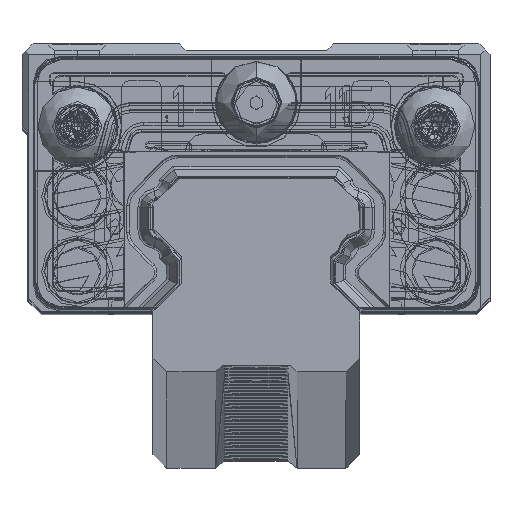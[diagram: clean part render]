
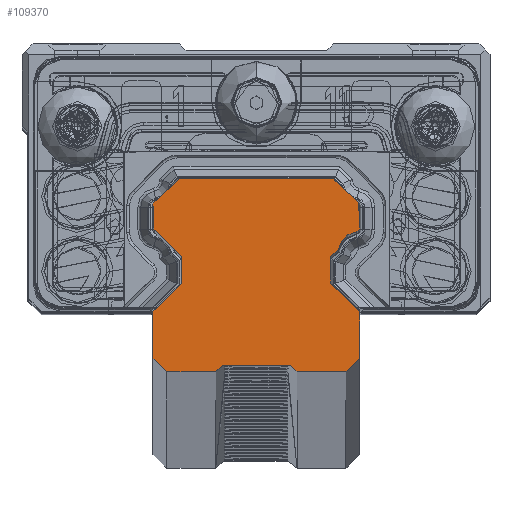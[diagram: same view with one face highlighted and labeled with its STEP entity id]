
A CAD part, top view. The second image highlights one B-rep face of the part: STEP entity #109370.
In plain terms, the highlighted planar face has unit normal (0, 0, 1).
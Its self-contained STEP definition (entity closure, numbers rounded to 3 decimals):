
#97195=DIRECTION('',(0.707,-0.707,0.));
#97196=VECTOR('',#97195,0.758);
#97197=CARTESIAN_POINT('',(-5.936,-2.414,500.));
#97198=LINE('',#97197,#97196);
#97223=DIRECTION('',(0.707,0.707,0.));
#97224=VECTOR('',#97223,0.707);
#97225=CARTESIAN_POINT('',(-2.95,-11.3,500.));
#97226=LINE('',#97225,#97224);
#97959=DIRECTION('',(-0.707,-0.707,0.));
#97960=VECTOR('',#97959,0.494);
#97961=CARTESIAN_POINT('',(-5.6,2.7,500.));
#97962=LINE('',#97961,#97960);
#98394=CARTESIAN_POINT('',(2.45,-10.8,500.));
#98396=DIRECTION('',(0.707,-0.707,0.));
#98397=VECTOR('',#98396,0.707);
#98398=CARTESIAN_POINT('',(2.45,-10.8,500.));
#98399=LINE('',#98398,#98397);
#101709=DIRECTION('',(1.,0.,0.));
#101710=VECTOR('',#101709,4.9);
#101711=CARTESIAN_POINT('',(-2.45,-10.8,500.));
#101712=LINE('',#101711,#101710);
#101713=CARTESIAN_POINT('',(-5.936,-2.414,500.));
#101714=CARTESIAN_POINT('',(-5.98,-2.183,500.));
#101715=CARTESIAN_POINT('',(-6.157,-1.769,500.));
#101716=CARTESIAN_POINT('',(-6.608,-1.371,500.));
#101717=CARTESIAN_POINT('',(-7.067,-1.061,500.));
#101718=CARTESIAN_POINT('',(-7.423,-1.005,500.));
#101720=DIRECTION('',(-0.042,0.999,0.));
#101721=VECTOR('',#101720,1.841);
#101722=CARTESIAN_POINT('',(-7.423,-1.005,500.));
#101723=LINE('',#101722,#101721);
#101724=CARTESIAN_POINT('',(-7.2,0.834,500.));
#101725=DIRECTION('',(0.,0.,-1.));
#101726=DIRECTION('',(-1.,0.,0.));
#101727=AXIS2_PLACEMENT_3D('',#101724,#101725,#101726);
#101729=CARTESIAN_POINT('',(-7.19,1.143,500.));
#101730=CARTESIAN_POINT('',(-6.98,1.203,500.));
#101731=CARTESIAN_POINT('',(-6.676,1.296,500.));
#101732=CARTESIAN_POINT('',(-6.184,1.738,500.));
#101733=CARTESIAN_POINT('',(-6.002,2.122,500.));
#101734=CARTESIAN_POINT('',(-5.949,2.351,500.));
#101736=DIRECTION('',(1.,0.,0.));
#101737=VECTOR('',#101736,11.2);
#101738=CARTESIAN_POINT('',(-5.6,2.7,500.));
#101739=LINE('',#101738,#101737);
#101740=CARTESIAN_POINT('',(5.949,2.351,500.));
#101741=CARTESIAN_POINT('',(5.998,2.141,500.));
#101742=CARTESIAN_POINT('',(6.171,1.758,500.));
#101743=CARTESIAN_POINT('',(6.589,1.387,500.));
#101744=CARTESIAN_POINT('',(7.05,1.068,500.));
#101745=CARTESIAN_POINT('',(7.418,1.006,500.));
#101747=DIRECTION('',(0.044,-0.999,0.));
#101748=VECTOR('',#101747,1.842);
#101749=CARTESIAN_POINT('',(7.418,1.006,500.));
#101750=LINE('',#101749,#101748);
#101751=CARTESIAN_POINT('',(7.2,-0.834,500.));
#101752=DIRECTION('',(0.,0.,-1.));
#101753=DIRECTION('',(1.,0.,0.));
#101754=AXIS2_PLACEMENT_3D('',#101751,#101752,#101753);
#101756=CARTESIAN_POINT('',(7.509,-2.709,500.));
#101757=DIRECTION('',(0.,0.,1.));
#101758=DIRECTION('',(-0.163,0.987,0.));
#101759=AXIS2_PLACEMENT_3D('',#101756,#101757,#101758);
#101761=DIRECTION('',(0.,-1.,0.));
#101762=VECTOR('',#101761,1.9);
#101763=CARTESIAN_POINT('',(5.4,-2.95,500.));
#101764=LINE('',#101763,#101762);
#101765=DIRECTION('',(0.707,-0.707,0.));
#101766=VECTOR('',#101765,2.97);
#101767=CARTESIAN_POINT('',(5.4,-4.85,500.));
#101768=LINE('',#101767,#101766);
#101769=DIRECTION('',(0.,-1.,0.));
#101770=VECTOR('',#101769,3.35);
#101771=CARTESIAN_POINT('',(7.5,-6.95,500.));
#101772=LINE('',#101771,#101770);
#101773=DIRECTION('',(-0.707,-0.707,0.));
#101774=VECTOR('',#101773,1.414);
#101775=CARTESIAN_POINT('',(7.5,-10.3,500.));
#101776=LINE('',#101775,#101774);
#101777=DIRECTION('',(-1.,0.,0.));
#101778=VECTOR('',#101777,3.55);
#101779=CARTESIAN_POINT('',(6.5,-11.3,500.));
#101780=LINE('',#101779,#101778);
#101781=DIRECTION('',(-1.,0.,0.));
#101782=VECTOR('',#101781,3.55);
#101783=CARTESIAN_POINT('',(-2.95,-11.3,500.));
#101784=LINE('',#101783,#101782);
#101785=DIRECTION('',(-0.707,0.707,0.));
#101786=VECTOR('',#101785,1.414);
#101787=CARTESIAN_POINT('',(-6.5,-11.3,500.));
#101788=LINE('',#101787,#101786);
#101789=DIRECTION('',(0.,1.,0.));
#101790=VECTOR('',#101789,3.35);
#101791=CARTESIAN_POINT('',(-7.5,-10.3,500.));
#101792=LINE('',#101791,#101790);
#101793=DIRECTION('',(0.707,0.707,0.));
#101794=VECTOR('',#101793,2.97);
#101795=CARTESIAN_POINT('',(-7.5,-6.95,500.));
#101796=LINE('',#101795,#101794);
#101797=DIRECTION('',(0.,1.,0.));
#101798=VECTOR('',#101797,1.9);
#101799=CARTESIAN_POINT('',(-5.4,-4.85,500.));
#101800=LINE('',#101799,#101798);
#101801=DIRECTION('',(-0.707,0.707,0.));
#101802=VECTOR('',#101801,0.494);
#101803=CARTESIAN_POINT('',(5.949,2.351,500.));
#101804=LINE('',#101803,#101802);
#101833=DIRECTION('',(0.707,0.707,0.));
#101834=VECTOR('',#101833,0.758);
#101835=CARTESIAN_POINT('',(5.4,-2.95,500.));
#101836=LINE('',#101835,#101834);
#102333=CARTESIAN_POINT('',(-5.936,-2.414,500.));
#102335=VERTEX_POINT('',#102333);
#102338=CARTESIAN_POINT('',(-7.423,-1.005,500.));
#102339=VERTEX_POINT('',#102338);
#102341=CARTESIAN_POINT('',(-5.4,-2.95,500.));
#102343=VERTEX_POINT('',#102341);
#102345=CARTESIAN_POINT('',(-5.4,-4.85,500.));
#102347=VERTEX_POINT('',#102345);
#102349=CARTESIAN_POINT('',(-7.5,-6.95,500.));
#102351=VERTEX_POINT('',#102349);
#102353=CARTESIAN_POINT('',(-7.5,-10.3,500.));
#102355=VERTEX_POINT('',#102353);
#102357=CARTESIAN_POINT('',(-6.5,-11.3,500.));
#102359=VERTEX_POINT('',#102357);
#102361=CARTESIAN_POINT('',(-2.95,-11.3,500.));
#102363=VERTEX_POINT('',#102361);
#102369=CARTESIAN_POINT('',(-2.45,-10.8,500.));
#102370=VERTEX_POINT('',#102369);
#102534=VERTEX_POINT('',#98394);
#102587=CARTESIAN_POINT('',(2.95,-11.3,500.));
#102588=VERTEX_POINT('',#102587);
#102591=CARTESIAN_POINT('',(-7.5,0.834,500.));
#102592=VERTEX_POINT('',#102591);
#102593=CARTESIAN_POINT('',(-7.249,1.13,500.));
#102594=VERTEX_POINT('',#102593);
#102595=VERTEX_POINT('',#101734);
#102596=CARTESIAN_POINT('',(-5.6,2.7,500.));
#102597=VERTEX_POINT('',#102596);
#102598=CARTESIAN_POINT('',(5.6,2.7,500.));
#102599=VERTEX_POINT('',#102598);
#102600=CARTESIAN_POINT('',(5.949,2.351,500.));
#102601=VERTEX_POINT('',#102600);
#102602=VERTEX_POINT('',#101745);
#102603=CARTESIAN_POINT('',(7.5,-0.834,500.));
#102604=VERTEX_POINT('',#102603);
#102605=CARTESIAN_POINT('',(7.249,-1.13,500.));
#102606=VERTEX_POINT('',#102605);
#102607=CARTESIAN_POINT('',(5.936,-2.414,500.));
#102608=VERTEX_POINT('',#102607);
#102609=CARTESIAN_POINT('',(5.4,-2.95,500.));
#102610=VERTEX_POINT('',#102609);
#102611=CARTESIAN_POINT('',(5.4,-4.85,500.));
#102612=VERTEX_POINT('',#102611);
#102613=CARTESIAN_POINT('',(7.5,-6.95,500.));
#102614=VERTEX_POINT('',#102613);
#102615=CARTESIAN_POINT('',(7.5,-10.3,500.));
#102616=VERTEX_POINT('',#102615);
#102617=CARTESIAN_POINT('',(6.5,-11.3,500.));
#102618=VERTEX_POINT('',#102617);
#109326=CARTESIAN_POINT('',(0.,0.,500.));
#109327=DIRECTION('',(0.,0.,1.));
#109328=DIRECTION('',(1.,0.,0.));
#109329=AXIS2_PLACEMENT_3D('',#109326,#109327,#109328);
#109330=PLANE('',#109329);
#109331=ORIENTED_EDGE('',*,*,#103466,.T.);
#109332=ORIENTED_EDGE('',*,*,#104256,.T.);
#109333=ORIENTED_EDGE('',*,*,#104241,.T.);
#109334=ORIENTED_EDGE('',*,*,#104226,.T.);
#109335=ORIENTED_EDGE('',*,*,#104211,.F.);
#109336=ORIENTED_EDGE('',*,*,#103796,.T.);
#109338=ORIENTED_EDGE('',*,*,#109337,.F.);
#109340=ORIENTED_EDGE('',*,*,#109339,.T.);
#109342=ORIENTED_EDGE('',*,*,#109341,.T.);
#109344=ORIENTED_EDGE('',*,*,#109343,.T.);
#109346=ORIENTED_EDGE('',*,*,#109345,.T.);
#109348=ORIENTED_EDGE('',*,*,#109347,.F.);
#109350=ORIENTED_EDGE('',*,*,#109349,.T.);
#109352=ORIENTED_EDGE('',*,*,#109351,.T.);
#109354=ORIENTED_EDGE('',*,*,#109353,.T.);
#109356=ORIENTED_EDGE('',*,*,#109355,.T.);
#109358=ORIENTED_EDGE('',*,*,#109357,.T.);
#109359=ORIENTED_EDGE('',*,*,#104487,.F.);
#109360=ORIENTED_EDGE('',*,*,#109321,.F.);
#109361=ORIENTED_EDGE('',*,*,#103573,.F.);
#109362=ORIENTED_EDGE('',*,*,#103556,.T.);
#109363=ORIENTED_EDGE('',*,*,#103541,.T.);
#109364=ORIENTED_EDGE('',*,*,#103526,.T.);
#109365=ORIENTED_EDGE('',*,*,#103511,.T.);
#109366=ORIENTED_EDGE('',*,*,#103496,.T.);
#109367=ORIENTED_EDGE('',*,*,#103481,.F.);
#109368=EDGE_LOOP('',(#109331,#109332,#109333,#109334,#109335,#109336,#109338,
#109340,#109342,#109344,#109346,#109348,#109350,#109352,#109354,#109356,#109358,
#109359,#109360,#109361,#109362,#109363,#109364,#109365,#109366,#109367));
#109369=FACE_OUTER_BOUND('',#109368,.F.);
#109370=ADVANCED_FACE('',(#109369),#109330,.T.);
#101719=B_SPLINE_CURVE_WITH_KNOTS('',3,(#101713,#101714,#101715,#101716,#101717,
#101718),.UNSPECIFIED.,.F.,.F.,(4,1,1,4),(0.,0.333,
0.667,1.),.UNSPECIFIED.);
#101728=CIRCLE('',#101727,0.3);
#101735=B_SPLINE_CURVE_WITH_KNOTS('',3,(#101729,#101730,#101731,#101732,#101733,
#101734),.UNSPECIFIED.,.F.,.F.,(4,1,1,4),(0.,0.333,
0.667,1.),.UNSPECIFIED.);
#101746=B_SPLINE_CURVE_WITH_KNOTS('',3,(#101740,#101741,#101742,#101743,#101744,
#101745),.UNSPECIFIED.,.F.,.F.,(4,1,1,4),(0.,0.333,
0.667,1.),.UNSPECIFIED.);
#101755=CIRCLE('',#101754,0.3);
#101760=CIRCLE('',#101759,1.6);
#103466=EDGE_CURVE('',#102335,#102339,#101719,.T.);
#103481=EDGE_CURVE('',#102335,#102343,#97198,.T.);
#103496=EDGE_CURVE('',#102347,#102343,#101800,.T.);
#103511=EDGE_CURVE('',#102351,#102347,#101796,.T.);
#103526=EDGE_CURVE('',#102355,#102351,#101792,.T.);
#103541=EDGE_CURVE('',#102359,#102355,#101788,.T.);
#103556=EDGE_CURVE('',#102363,#102359,#101784,.T.);
#103573=EDGE_CURVE('',#102363,#102370,#97226,.T.);
#103796=EDGE_CURVE('',#102597,#102599,#101739,.T.);
#104211=EDGE_CURVE('',#102597,#102595,#97962,.T.);
#104226=EDGE_CURVE('',#102594,#102595,#101735,.T.);
#104241=EDGE_CURVE('',#102592,#102594,#101728,.T.);
#104256=EDGE_CURVE('',#102339,#102592,#101723,.T.);
#104487=EDGE_CURVE('',#102534,#102588,#98399,.T.);
#109321=EDGE_CURVE('',#102370,#102534,#101712,.T.);
#109337=EDGE_CURVE('',#102601,#102599,#101804,.T.);
#109339=EDGE_CURVE('',#102601,#102602,#101746,.T.);
#109341=EDGE_CURVE('',#102602,#102604,#101750,.T.);
#109343=EDGE_CURVE('',#102604,#102606,#101755,.T.);
#109345=EDGE_CURVE('',#102606,#102608,#101760,.T.);
#109347=EDGE_CURVE('',#102610,#102608,#101836,.T.);
#109349=EDGE_CURVE('',#102610,#102612,#101764,.T.);
#109351=EDGE_CURVE('',#102612,#102614,#101768,.T.);
#109353=EDGE_CURVE('',#102614,#102616,#101772,.T.);
#109355=EDGE_CURVE('',#102616,#102618,#101776,.T.);
#109357=EDGE_CURVE('',#102618,#102588,#101780,.T.);
